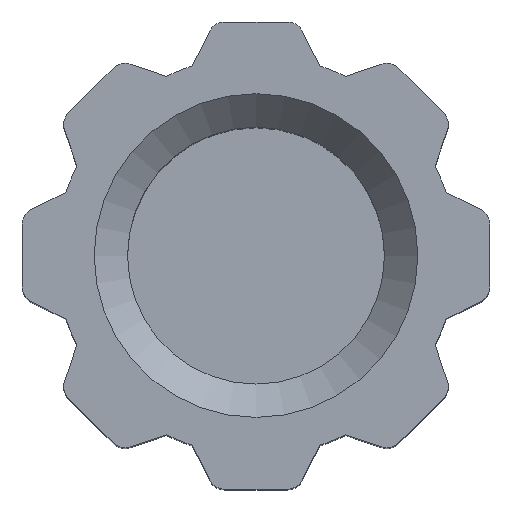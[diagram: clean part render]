
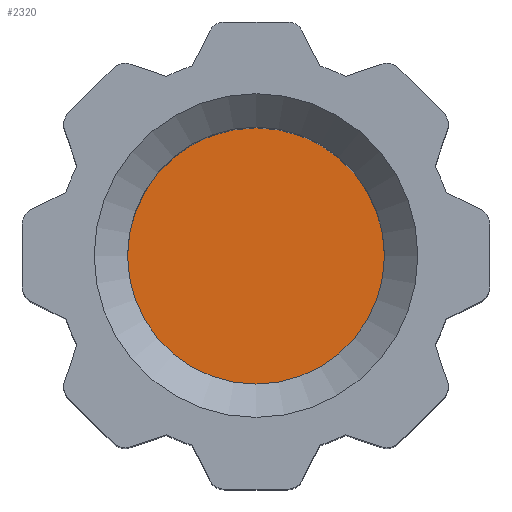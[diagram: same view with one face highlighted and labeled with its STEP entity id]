
A CAD part, top view. The second image highlights one B-rep face of the part: STEP entity #2320.
In plain terms, the highlighted planar face has unit normal (0, 0, 1).
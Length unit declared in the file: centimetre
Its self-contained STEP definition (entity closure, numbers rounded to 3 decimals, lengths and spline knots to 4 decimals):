
#649=PLANE($,#2535);
#801=FACE_OUTER_BOUND($,#947,.T.);
#947=EDGE_LOOP($,(#2094));
#996=CIRCLE($,#2371,0.385);
#1082=VERTEX_POINT($,#3356);
#1278=EDGE_CURVE($,#1082,#1082,#996,.T.);
#2094=ORIENTED_EDGE($,*,*,#1278,.F.);
#2320=ADVANCED_FACE($,(#801),#649,.T.);
#2371=AXIS2_PLACEMENT_3D($,#3357,#2656,#2657);
#2535=AXIS2_PLACEMENT_3D($,#4396,#3133,#3134);
#2656=DIRECTION('center_axis',(0.,0.,-1.));
#2657=DIRECTION('ref_axis',(-1.,0.,0.));
#3133=DIRECTION('center_axis',(0.,0.,1.));
#3134=DIRECTION('ref_axis',(1.,0.,0.));
#3356=CARTESIAN_POINT('',(-3.0844,13.4826,0.895));
#3357=CARTESIAN_POINT('Origin',(-3.4694,13.4826,0.895));
#4396=CARTESIAN_POINT('Origin',(-3.4694,13.4826,0.895));
